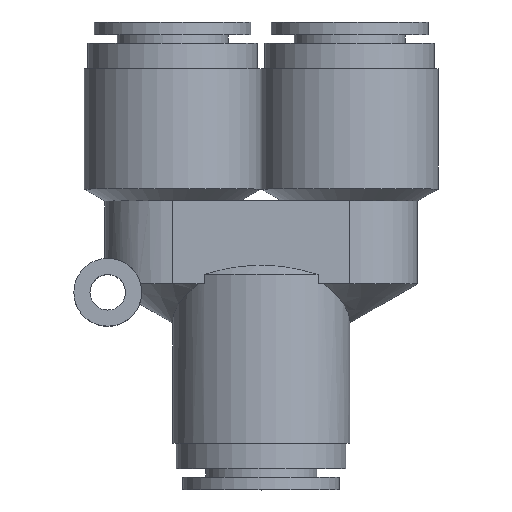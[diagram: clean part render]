
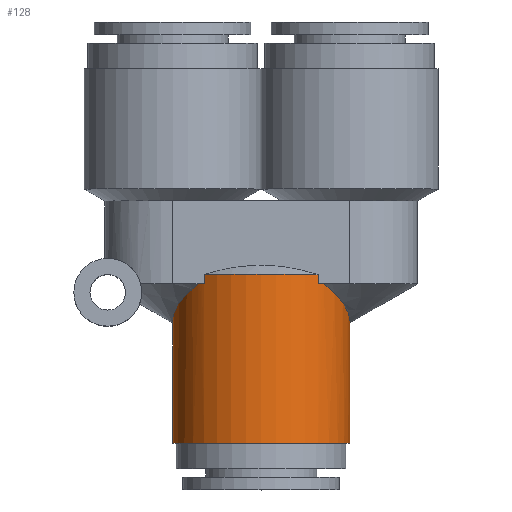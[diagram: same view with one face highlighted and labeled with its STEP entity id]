
A CAD part, top view. The second image highlights one B-rep face of the part: STEP entity #128.
In plain terms, the highlighted cylindrical face has radius 10.45 mm (diameter 20.9 mm), a partial arc.
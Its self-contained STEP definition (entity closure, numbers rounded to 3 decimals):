
#128 = ADVANCED_FACE( '', ( #260 ), #261, .T. );
#260 = FACE_OUTER_BOUND( '', #418, .T. );
#261 = CYLINDRICAL_SURFACE( '', #419, 10.45 );
#418 = EDGE_LOOP( '', ( #854, #855, #856, #857, #858, #859, #860, #861, #862, #863 ) );
#419 = AXIS2_PLACEMENT_3D( '', #864, #865, #866 );
#854 = ORIENTED_EDGE( '', *, *, #1032, .T. );
#855 = ORIENTED_EDGE( '', *, *, #1134, .F. );
#856 = ORIENTED_EDGE( '', *, *, #1039, .T. );
#857 = ORIENTED_EDGE( '', *, *, #1125, .F. );
#858 = ORIENTED_EDGE( '', *, *, #1119, .T. );
#859 = ORIENTED_EDGE( '', *, *, #1112, .T. );
#860 = ORIENTED_EDGE( '', *, *, #1135, .T. );
#861 = ORIENTED_EDGE( '', *, *, #1110, .T. );
#862 = ORIENTED_EDGE( '', *, *, #1117, .T. );
#863 = ORIENTED_EDGE( '', *, *, #1136, .F. );
#864 = CARTESIAN_POINT( '', ( 0., 15.45, 0. ) );
#865 = DIRECTION( '', ( 0., 1., 0. ) );
#866 = DIRECTION( '', ( -1., 0., 0. ) );
#1032 = EDGE_CURVE( '', #1191, #1226, #1227, .T. );
#1039 = EDGE_CURVE( '', #1240, #1238, #1241, .T. );
#1110 = EDGE_CURVE( '', #1359, #1360, #1361, .T. );
#1112 = EDGE_CURVE( '', #1364, #1362, #1365, .T. );
#1117 = EDGE_CURVE( '', #1360, #1370, #1372, .T. );
#1119 = EDGE_CURVE( '', #1373, #1364, #1375, .T. );
#1125 = EDGE_CURVE( '', #1373, #1238, #1381, .T. );
#1134 = EDGE_CURVE( '', #1240, #1226, #1390, .T. );
#1135 = EDGE_CURVE( '', #1362, #1359, #1391, .T. );
#1136 = EDGE_CURVE( '', #1191, #1370, #1392, .T. );
#1191 = VERTEX_POINT( '', #1457 );
#1226 = VERTEX_POINT( '', #1566 );
#1227 = LINE( '', #1567, #1568 );
#1238 = VERTEX_POINT( '', #1581 );
#1240 = VERTEX_POINT( '', #1592 );
#1241 = LINE( '', #1593, #1594 );
#1359 = VERTEX_POINT( '', #1875 );
#1360 = VERTEX_POINT( '', #1876 );
#1361 = LINE( '', #1877, #1878 );
#1362 = VERTEX_POINT( '', #1879 );
#1364 = VERTEX_POINT( '', #1890 );
#1365 = LINE( '', #1891, #1892 );
#1370 = VERTEX_POINT( '', #1900 );
#1372 = CIRCLE( '', #1902, 10.45 );
#1373 = VERTEX_POINT( '', #1903 );
#1375 = CIRCLE( '', #1905, 10.45 );
#1381 = B_SPLINE_CURVE_WITH_KNOTS( '', 3, ( #1922, #1923, #1924, #1925, #1926, #1927, #1928, #1929, #1930, #1931 ), .UNSPECIFIED., .F., .F., ( 4, 2, 2, 2, 4 ), ( 2.126, 2.788, 5.576, 8.364, 11.153 ), .UNSPECIFIED. );
#1390 = CIRCLE( '', #1940, 10.45 );
#1391 = CIRCLE( '', #1941, 10.45 );
#1392 = B_SPLINE_CURVE_WITH_KNOTS( '', 3, ( #1942, #1943, #1944, #1945, #1946, #1947, #1948, #1949, #1950, #1951 ), .UNSPECIFIED., .F., .F., ( 4, 2, 2, 2, 4 ), ( 0., 2.788, 5.576, 8.364, 9.027 ), .UNSPECIFIED. );
#1457 = CARTESIAN_POINT( '', ( -10.45, 19.7, 0. ) );
#1566 = CARTESIAN_POINT( '', ( -10.45, 5.5, 0. ) );
#1567 = CARTESIAN_POINT( '', ( -10.45, 15.45, 0. ) );
#1568 = VECTOR( '', #2037, 1. );
#1581 = CARTESIAN_POINT( '', ( 10.45, 19.7, 0. ) );
#1592 = CARTESIAN_POINT( '', ( 10.45, 5.5, 0. ) );
#1593 = CARTESIAN_POINT( '', ( 10.45, 15.45, 0. ) );
#1594 = VECTOR( '', #2049, 1. );
#1875 = CARTESIAN_POINT( '', ( -6.723, 25.4, 8. ) );
#1876 = CARTESIAN_POINT( '', ( -6.723, 24.3, 8. ) );
#1877 = CARTESIAN_POINT( '', ( -6.723, 24.85, 8. ) );
#1878 = VECTOR( '', #2190, 1. );
#1879 = CARTESIAN_POINT( '', ( 6.723, 25.4, 8. ) );
#1890 = CARTESIAN_POINT( '', ( 6.723, 24.3, 8. ) );
#1891 = CARTESIAN_POINT( '', ( 6.723, 24.85, 8. ) );
#1892 = VECTOR( '', #2191, 1. );
#1900 = CARTESIAN_POINT( '', ( -7.388, 24.3, 7.391 ) );
#1902 = AXIS2_PLACEMENT_3D( '', #2198, #2199, #2200 );
#1903 = CARTESIAN_POINT( '', ( 7.388, 24.3, 7.391 ) );
#1905 = AXIS2_PLACEMENT_3D( '', #2204, #2205, #2206 );
#1922 = CARTESIAN_POINT( '', ( 7.388, 24.3, 7.391 ) );
#1923 = CARTESIAN_POINT( '', ( 7.531, 24.193, 7.248 ) );
#1924 = CARTESIAN_POINT( '', ( 7.669, 24.085, 7.101 ) );
#1925 = CARTESIAN_POINT( '', ( 8.372, 23.517, 6.312 ) );
#1926 = CARTESIAN_POINT( '', ( 8.864, 23.044, 5.6 ) );
#1927 = CARTESIAN_POINT( '', ( 9.658, 22.088, 4.082 ) );
#1928 = CARTESIAN_POINT( '', ( 9.959, 21.604, 3.275 ) );
#1929 = CARTESIAN_POINT( '', ( 10.355, 20.641, 1.637 ) );
#1930 = CARTESIAN_POINT( '', ( 10.45, 20.163, 0.806 ) );
#1931 = CARTESIAN_POINT( '', ( 10.45, 19.7, 0. ) );
#1940 = AXIS2_PLACEMENT_3D( '', #2239, #2240, #2241 );
#1941 = AXIS2_PLACEMENT_3D( '', #2242, #2243, #2244 );
#1942 = CARTESIAN_POINT( '', ( -10.45, 19.7, 0. ) );
#1943 = CARTESIAN_POINT( '', ( -10.45, 20.163, 0.806 ) );
#1944 = CARTESIAN_POINT( '', ( -10.355, 20.641, 1.637 ) );
#1945 = CARTESIAN_POINT( '', ( -9.959, 21.604, 3.275 ) );
#1946 = CARTESIAN_POINT( '', ( -9.658, 22.088, 4.082 ) );
#1947 = CARTESIAN_POINT( '', ( -8.864, 23.044, 5.6 ) );
#1948 = CARTESIAN_POINT( '', ( -8.372, 23.517, 6.312 ) );
#1949 = CARTESIAN_POINT( '', ( -7.669, 24.085, 7.101 ) );
#1950 = CARTESIAN_POINT( '', ( -7.531, 24.193, 7.248 ) );
#1951 = CARTESIAN_POINT( '', ( -7.388, 24.3, 7.391 ) );
#2037 = DIRECTION( '', ( 0., -1., 0. ) );
#2049 = DIRECTION( '', ( 0., 1., 0. ) );
#2190 = DIRECTION( '', ( 0., -1., 0. ) );
#2191 = DIRECTION( '', ( 0., 1., 0. ) );
#2198 = CARTESIAN_POINT( '', ( 0., 24.3, 0. ) );
#2199 = DIRECTION( '', ( 0., -1., 0. ) );
#2200 = DIRECTION( '', ( -1., 0., 0. ) );
#2204 = CARTESIAN_POINT( '', ( 0., 24.3, 0. ) );
#2205 = DIRECTION( '', ( 0., -1., 0. ) );
#2206 = DIRECTION( '', ( -1., 0., 0. ) );
#2239 = CARTESIAN_POINT( '', ( 0., 5.5, 0. ) );
#2240 = DIRECTION( '', ( 0., -1., 0. ) );
#2241 = DIRECTION( '', ( -1., 0., 0. ) );
#2242 = CARTESIAN_POINT( '', ( 0., 25.4, 0. ) );
#2243 = DIRECTION( '', ( 0., -1., 0. ) );
#2244 = DIRECTION( '', ( -1., 0., 0. ) );
